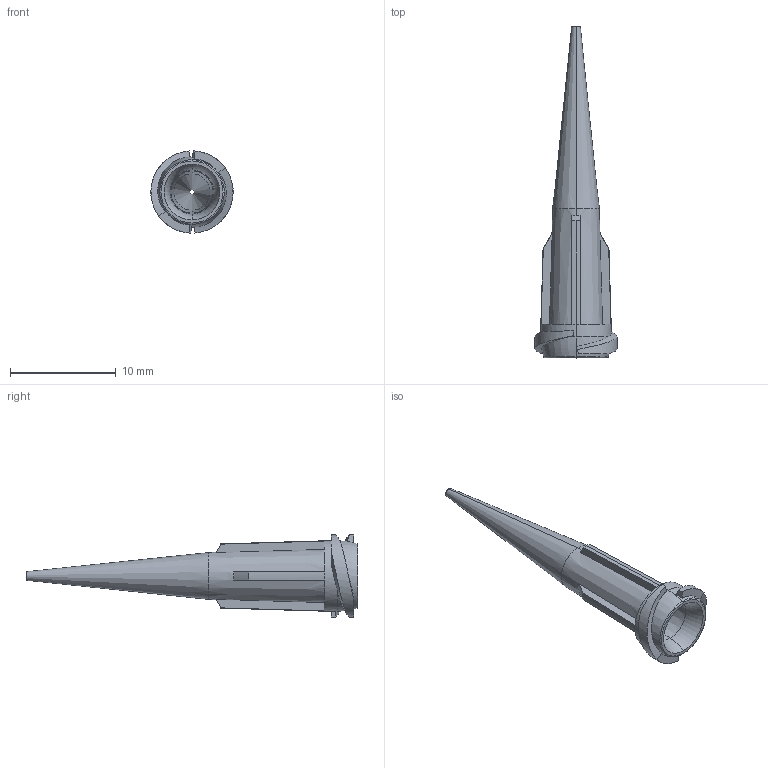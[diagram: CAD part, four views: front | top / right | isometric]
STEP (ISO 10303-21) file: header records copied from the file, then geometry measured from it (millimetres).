
FILE_DESCRIPTION (( 'STEP AP214' ), '1' );
FILE_NAME ('NORDSONEFD-7018297 TIP 22GA TT 016 BL.STEP', '2019-01-09T16:55:55', ( '' ), ( '' ), 'SwSTEP 2.0', 'SolidWorks 2018', '' );
FILE_SCHEMA (( 'AUTOMOTIVE_DESIGN' ));
Length unit declared in the file: inch
Products named in the file (1): NORDSONEFD-7018297 TIP 22GA TT 016 BL
Bounding box: 7.77 x 31.37 x 7.77 mm (x, y, z)
Volume: 210 mm3; surface area: 759.5 mm2
Topology: 1 solids, 1 shells, 58 faces, 144 edges, 88 vertices
Faces by surface type: plane 22, cone 14, bspline 12, torus 8, cylinder 2
Entity records: 2112 total; most frequent: CARTESIAN_POINT 801, ORIENTED_EDGE 288, DIRECTION 246, EDGE_CURVE 144, AXIS2_PLACEMENT_3D 103, VERTEX_POINT 88, EDGE_LOOP 60, ADVANCED_FACE 58
